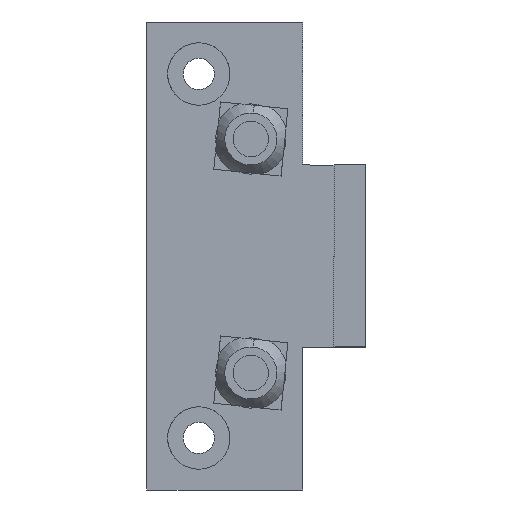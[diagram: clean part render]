
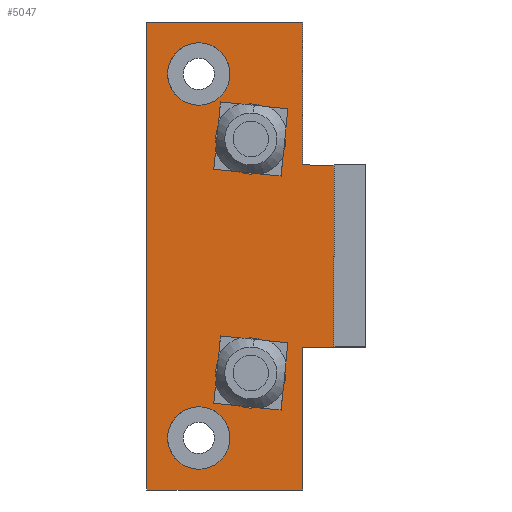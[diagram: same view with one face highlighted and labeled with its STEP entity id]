
A CAD part, front view. The second image highlights one B-rep face of the part: STEP entity #5047.
In plain terms, the highlighted planar face has unit normal (0, -1, 0).
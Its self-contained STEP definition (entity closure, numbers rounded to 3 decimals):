
#28 = CARTESIAN_POINT ( 'NONE',  ( -12., -20., 31.6 ) ) ;
#30 = CARTESIAN_POINT ( 'NONE',  ( -42., -20., -58.4 ) ) ;
#32 = CARTESIAN_POINT ( 'NONE',  ( -26., -20., -48.4 ) ) ;
#37 = CARTESIAN_POINT ( 'NONE',  ( -26., -20., 21.6 ) ) ;
#39 = CARTESIAN_POINT ( 'NONE',  ( -6., -20., 4.1 ) ) ;
#71 = CARTESIAN_POINT ( 'NONE',  ( -15.25, -20., -35.9 ) ) ;
#72 = CARTESIAN_POINT ( 'NONE',  ( -12., -20., -30.9 ) ) ;
#80 = CARTESIAN_POINT ( 'NONE',  ( -28.75, -20., 9.1 ) ) ;
#81 = CARTESIAN_POINT ( 'NONE',  ( -15.25, -20., 9.1 ) ) ;
#104 = CARTESIAN_POINT ( 'NONE',  ( -12., -20., 4.1 ) ) ;
#152 = CARTESIAN_POINT ( 'NONE',  ( -12., -20., -58.4 ) ) ;
#241 = CARTESIAN_POINT ( 'NONE',  ( -28.75, -20., -35.9 ) ) ;
#249 = CARTESIAN_POINT ( 'NONE',  ( -42., -20., 31.6 ) ) ;
#266 = CARTESIAN_POINT ( 'NONE',  ( -6., -20., -30.9 ) ) ;
#269 = CARTESIAN_POINT ( 'NONE',  ( -38., -20., -48.4 ) ) ;
#446 = CARTESIAN_POINT ( 'NONE',  ( -38., -20., 21.6 ) ) ;
#480 = LINE ( 'NONE', #2202, #998 ) ;
#481 = VECTOR ( 'NONE', #2219, 1000. ) ;
#483 = LINE ( 'NONE', #2230, #481 ) ;
#665 = CIRCLE ( 'NONE', #4151, 6. ) ;
#997 = LINE ( 'NONE', #2197, #1002 ) ;
#998 = VECTOR ( 'NONE', #2201, 1000. ) ;
#1000 = LINE ( 'NONE', #2185, #1003 ) ;
#1001 = CIRCLE ( 'NONE', #4086, 6.75 ) ;
#1002 = VECTOR ( 'NONE', #2195, 1000. ) ;
#1003 = VECTOR ( 'NONE', #2180, 1000. ) ;
#1009 = CIRCLE ( 'NONE', #4087, 6.75 ) ;
#1014 = CIRCLE ( 'NONE', #4091, 6. ) ;
#1022 = CIRCLE ( 'NONE', #4068, 6. ) ;
#1023 = LINE ( 'NONE', #2115, #1032 ) ;
#1025 = CIRCLE ( 'NONE', #4063, 6.75 ) ;
#1026 = LINE ( 'NONE', #2118, #1028 ) ;
#1028 = VECTOR ( 'NONE', #2116, 1000. ) ;
#1032 = VECTOR ( 'NONE', #2112, 1000. ) ;
#1041 = VECTOR ( 'NONE', #2073, 1000. ) ;
#1044 = LINE ( 'NONE', #2075, #1041 ) ;
#1050 = CIRCLE ( 'NONE', #4079, 6. ) ;
#1068 = VECTOR ( 'NONE', #2026, 1000. ) ;
#1072 = LINE ( 'NONE', #2029, #1068 ) ;
#1082 = CIRCLE ( 'NONE', #4006, 6.75 ) ;
#1523 = FACE_BOUND ( 'NONE', #5283, .T. ) ;
#1524 = FACE_BOUND ( 'NONE', #5318, .T. ) ;
#1527 = FACE_BOUND ( 'NONE', #5311, .T. ) ;
#1529 = FACE_OUTER_BOUND ( 'NONE', #5310, .T. ) ;
#1531 = FACE_BOUND ( 'NONE', #5312, .T. ) ;
#1970 = DIRECTION ( 'NONE',  ( 1., 0., 0. ) ) ;
#1972 = DIRECTION ( 'NONE',  ( 0., -1., 0. ) ) ;
#1973 = CARTESIAN_POINT ( 'NONE',  ( -22., -20., 9.1 ) ) ;
#2026 = DIRECTION ( 'NONE',  ( 0., 0., -1. ) ) ;
#2029 = CARTESIAN_POINT ( 'NONE',  ( -12., -20., -58.4 ) ) ;
#2056 = DIRECTION ( 'NONE',  ( 1., 0., 0. ) ) ;
#2058 = DIRECTION ( 'NONE',  ( 0., -1., 0. ) ) ;
#2059 = CARTESIAN_POINT ( 'NONE',  ( -32., -20., 21.6 ) ) ;
#2073 = DIRECTION ( 'NONE',  ( -1., 0., 0. ) ) ;
#2075 = CARTESIAN_POINT ( 'NONE',  ( -12., -20., -58.4 ) ) ;
#2104 = DIRECTION ( 'NONE',  ( 1., 0., 0. ) ) ;
#2105 = DIRECTION ( 'NONE',  ( 0., -1., 0. ) ) ;
#2106 = CARTESIAN_POINT ( 'NONE',  ( -22., -20., -35.9 ) ) ;
#2112 = DIRECTION ( 'NONE',  ( 0., 0., -1. ) ) ;
#2115 = CARTESIAN_POINT ( 'NONE',  ( -6., -20., 4.1 ) ) ;
#2116 = DIRECTION ( 'NONE',  ( 0., 0., -1. ) ) ;
#2118 = CARTESIAN_POINT ( 'NONE',  ( -42., -20., -58.4 ) ) ;
#2126 = DIRECTION ( 'NONE',  ( 1., 0., 0. ) ) ;
#2128 = DIRECTION ( 'NONE',  ( 0., -1., 0. ) ) ;
#2129 = CARTESIAN_POINT ( 'NONE',  ( -32., -20., -48.4 ) ) ;
#2161 = DIRECTION ( 'NONE',  ( 1., 0., 0. ) ) ;
#2162 = DIRECTION ( 'NONE',  ( 0., -1., 0. ) ) ;
#2163 = CARTESIAN_POINT ( 'NONE',  ( -32., -20., 21.6 ) ) ;
#2171 = DIRECTION ( 'NONE',  ( 1., 0., 0. ) ) ;
#2172 = DIRECTION ( 'NONE',  ( 0., -1., 0. ) ) ;
#2173 = CARTESIAN_POINT ( 'NONE',  ( -22., -20., 9.1 ) ) ;
#2180 = DIRECTION ( 'NONE',  ( -1., 0., 0. ) ) ;
#2182 = DIRECTION ( 'NONE',  ( 1., 0., 0. ) ) ;
#2183 = DIRECTION ( 'NONE',  ( 0., -1., 0. ) ) ;
#2184 = CARTESIAN_POINT ( 'NONE',  ( -22., -20., -35.9 ) ) ;
#2185 = CARTESIAN_POINT ( 'NONE',  ( -12., -20., 31.6 ) ) ;
#2195 = DIRECTION ( 'NONE',  ( -1., 0., 0. ) ) ;
#2197 = CARTESIAN_POINT ( 'NONE',  ( -6., -20., 4.1 ) ) ;
#2201 = DIRECTION ( 'NONE',  ( -1., 0., 0. ) ) ;
#2202 = CARTESIAN_POINT ( 'NONE',  ( -6., -20., -30.9 ) ) ;
#2219 = DIRECTION ( 'NONE',  ( 0., 0., -1. ) ) ;
#2230 = CARTESIAN_POINT ( 'NONE',  ( -12., -20., -58.4 ) ) ;
#2234 = DIRECTION ( 'NONE',  ( 1., 0., 0. ) ) ;
#2241 = DIRECTION ( 'NONE',  ( 0., -1., 0. ) ) ;
#2243 = CARTESIAN_POINT ( 'NONE',  ( -32., -20., -48.4 ) ) ;
#2561 = VERTEX_POINT ( 'NONE', #249 ) ;
#2589 = ORIENTED_EDGE ( 'NONE', *, *, #3781, .F. ) ;
#2726 = ORIENTED_EDGE ( 'NONE', *, *, #4245, .F. ) ;
#2772 = VERTEX_POINT ( 'NONE', #266 ) ;
#2838 = ORIENTED_EDGE ( 'NONE', *, *, #4226, .F. ) ;
#2843 = ORIENTED_EDGE ( 'NONE', *, *, #4221, .F. ) ;
#2876 = ORIENTED_EDGE ( 'NONE', *, *, #4244, .T. ) ;
#2892 = VERTEX_POINT ( 'NONE', #241 ) ;
#2991 = ORIENTED_EDGE ( 'NONE', *, *, #4228, .T. ) ;
#3023 = ORIENTED_EDGE ( 'NONE', *, *, #4223, .T. ) ;
#3075 = ORIENTED_EDGE ( 'NONE', *, *, #4275, .F. ) ;
#3114 = VERTEX_POINT ( 'NONE', #152 ) ;
#3152 = VERTEX_POINT ( 'NONE', #269 ) ;
#3194 = VERTEX_POINT ( 'NONE', #446 ) ;
#3273 = VERTEX_POINT ( 'NONE', #104 ) ;
#3397 = VERTEX_POINT ( 'NONE', #71 ) ;
#3405 = VERTEX_POINT ( 'NONE', #72 ) ;
#3406 = VERTEX_POINT ( 'NONE', #81 ) ;
#3408 = ORIENTED_EDGE ( 'NONE', *, *, #4219, .F. ) ;
#3468 = ORIENTED_EDGE ( 'NONE', *, *, #4255, .F. ) ;
#3499 = ORIENTED_EDGE ( 'NONE', *, *, #4240, .F. ) ;
#3501 = VERTEX_POINT ( 'NONE', #39 ) ;
#3505 = VERTEX_POINT ( 'NONE', #37 ) ;
#3580 = VERTEX_POINT ( 'NONE', #32 ) ;
#3581 = ORIENTED_EDGE ( 'NONE', *, *, #4261, .F. ) ;
#3604 = ORIENTED_EDGE ( 'NONE', *, *, #4231, .F. ) ;
#3609 = VERTEX_POINT ( 'NONE', #28 ) ;
#3612 = ORIENTED_EDGE ( 'NONE', *, *, #4233, .F. ) ;
#3615 = ORIENTED_EDGE ( 'NONE', *, *, #4246, .F. ) ;
#3616 = VERTEX_POINT ( 'NONE', #30 ) ;
#3677 = VERTEX_POINT ( 'NONE', #80 ) ;
#3679 = ORIENTED_EDGE ( 'NONE', *, *, #4293, .F. ) ;
#3781 = EDGE_CURVE ( 'NONE', #3152, #3580, #665, .T. ) ;
#3953 = AXIS2_PLACEMENT_3D ( 'NONE', #4691, #4689, #4684 ) ;
#4006 = AXIS2_PLACEMENT_3D ( 'NONE', #1973, #1972, #1970 ) ;
#4063 = AXIS2_PLACEMENT_3D ( 'NONE', #2106, #2105, #2104 ) ;
#4068 = AXIS2_PLACEMENT_3D ( 'NONE', #2129, #2128, #2126 ) ;
#4079 = AXIS2_PLACEMENT_3D ( 'NONE', #2059, #2058, #2056 ) ;
#4086 = AXIS2_PLACEMENT_3D ( 'NONE', #2184, #2183, #2182 ) ;
#4087 = AXIS2_PLACEMENT_3D ( 'NONE', #2173, #2172, #2171 ) ;
#4091 = AXIS2_PLACEMENT_3D ( 'NONE', #2163, #2162, #2161 ) ;
#4151 = AXIS2_PLACEMENT_3D ( 'NONE', #2243, #2241, #2234 ) ;
#4219 = EDGE_CURVE ( 'NONE', #3405, #3114, #483, .T. ) ;
#4221 = EDGE_CURVE ( 'NONE', #2772, #3405, #480, .T. ) ;
#4223 = EDGE_CURVE ( 'NONE', #3501, #3273, #997, .T. ) ;
#4226 = EDGE_CURVE ( 'NONE', #3397, #2892, #1001, .T. ) ;
#4228 = EDGE_CURVE ( 'NONE', #3609, #2561, #1000, .T. ) ;
#4231 = EDGE_CURVE ( 'NONE', #3406, #3677, #1009, .T. ) ;
#4233 = EDGE_CURVE ( 'NONE', #3505, #3194, #1014, .T. ) ;
#4240 = EDGE_CURVE ( 'NONE', #3580, #3152, #1022, .T. ) ;
#4244 = EDGE_CURVE ( 'NONE', #2561, #3616, #1026, .T. ) ;
#4245 = EDGE_CURVE ( 'NONE', #3501, #2772, #1023, .T. ) ;
#4246 = EDGE_CURVE ( 'NONE', #2892, #3397, #1025, .T. ) ;
#4255 = EDGE_CURVE ( 'NONE', #3114, #3616, #1044, .T. ) ;
#4261 = EDGE_CURVE ( 'NONE', #3194, #3505, #1050, .T. ) ;
#4275 = EDGE_CURVE ( 'NONE', #3609, #3273, #1072, .T. ) ;
#4293 = EDGE_CURVE ( 'NONE', #3677, #3406, #1082, .T. ) ;
#4684 = DIRECTION ( 'NONE',  ( -1., 0., 0. ) ) ;
#4686 = PLANE ( 'NONE',  #3953 ) ;
#4689 = DIRECTION ( 'NONE',  ( 0., 1., 0. ) ) ;
#4691 = CARTESIAN_POINT ( 'NONE',  ( -12., -20., -58.4 ) ) ;
#5047 = ADVANCED_FACE ( 'NONE', ( #1531, #1523, #1527, #1524, #1529 ), #4686, .F. ) ;
#5283 = EDGE_LOOP ( 'NONE', ( #3612, #3581 ) ) ;
#5310 = EDGE_LOOP ( 'NONE', ( #2876, #3468, #3408, #2843, #2726, #3023, #3075, #2991 ) ) ;
#5311 = EDGE_LOOP ( 'NONE', ( #3604, #3679 ) ) ;
#5312 = EDGE_LOOP ( 'NONE', ( #3499, #2589 ) ) ;
#5318 = EDGE_LOOP ( 'NONE', ( #2838, #3615 ) ) ;
